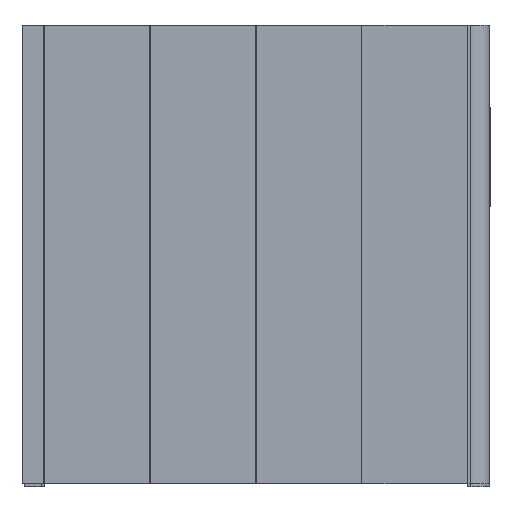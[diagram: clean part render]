
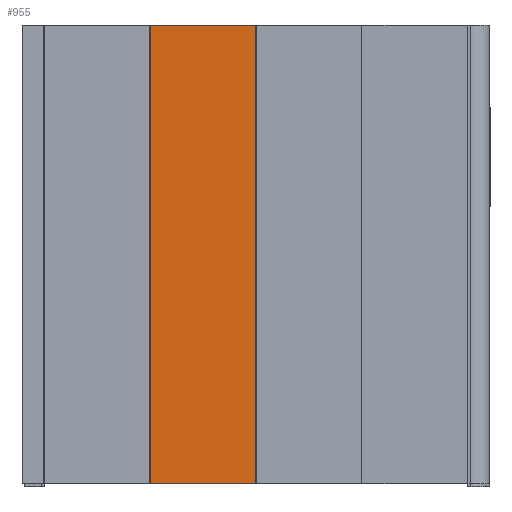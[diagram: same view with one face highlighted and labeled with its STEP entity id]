
A CAD part, left-side view. The second image highlights one B-rep face of the part: STEP entity #955.
In plain terms, the highlighted planar face has unit normal (-1, 0, 0) as drawn and (1, 0, 0) by its records, which use the part's own axes.
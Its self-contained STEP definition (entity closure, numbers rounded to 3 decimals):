
#955=ADVANCED_FACE('',(#1519),#8336,.T.);
#1519=FACE_OUTER_BOUND('',#2087,.T.);
#2087=EDGE_LOOP('',(#3512,#3513,#3514,#3515));
#3512=ORIENTED_EDGE('',*,*,#5423,.T.);
#3513=ORIENTED_EDGE('',*,*,#5424,.T.);
#3514=ORIENTED_EDGE('',*,*,#5425,.F.);
#3515=ORIENTED_EDGE('',*,*,#5421,.F.);
#5421=EDGE_CURVE('',#7625,#7626,#6618,.T.);
#5423=EDGE_CURVE('',#7625,#7627,#6620,.T.);
#5424=EDGE_CURVE('',#7627,#7628,#6621,.T.);
#5425=EDGE_CURVE('',#7626,#7628,#6622,.T.);
#6618=B_SPLINE_CURVE_WITH_KNOTS('',1,(#13645,#13646),.UNSPECIFIED.,.F.,
 .F.,(2,2),(0.,2600.),.UNSPECIFIED.);
#6620=B_SPLINE_CURVE_WITH_KNOTS('',1,(#13649,#13650),.UNSPECIFIED.,.F.,
 .F.,(2,2),(608.,1204.),.UNSPECIFIED.);
#6621=B_SPLINE_CURVE_WITH_KNOTS('',1,(#13651,#13652),.UNSPECIFIED.,.F.,
 .F.,(2,2),(0.,2600.),.UNSPECIFIED.);
#6622=B_SPLINE_CURVE_WITH_KNOTS('',1,(#13653,#13654),.UNSPECIFIED.,.F.,
 .F.,(2,2),(608.,1204.),.UNSPECIFIED.);
#7625=VERTEX_POINT('',#13631);
#7626=VERTEX_POINT('',#13632);
#7627=VERTEX_POINT('',#13633);
#7628=VERTEX_POINT('',#13634);
#8336=PLANE('',#10482);
#10482=AXIS2_PLACEMENT_3D('',#13623,#11258,$);
#11258=DIRECTION('',(1.,0.,0.));
#13623=CARTESIAN_POINT('',(-240.446,1329.195,18.));
#13631=CARTESIAN_POINT('',(-240.446,1329.195,18.));
#13632=CARTESIAN_POINT('',(-240.446,1329.195,2618.));
#13633=CARTESIAN_POINT('',(-240.446,1925.195,18.));
#13634=CARTESIAN_POINT('',(-240.446,1925.195,2618.));
#13645=CARTESIAN_POINT('',(-240.446,1329.195,18.));
#13646=CARTESIAN_POINT('',(-240.446,1329.195,2618.));
#13649=CARTESIAN_POINT('',(-240.446,1329.195,18.));
#13650=CARTESIAN_POINT('',(-240.446,1925.195,18.));
#13651=CARTESIAN_POINT('',(-240.446,1925.195,18.));
#13652=CARTESIAN_POINT('',(-240.446,1925.195,2618.));
#13653=CARTESIAN_POINT('',(-240.446,1329.195,2618.));
#13654=CARTESIAN_POINT('',(-240.446,1925.195,2618.));
